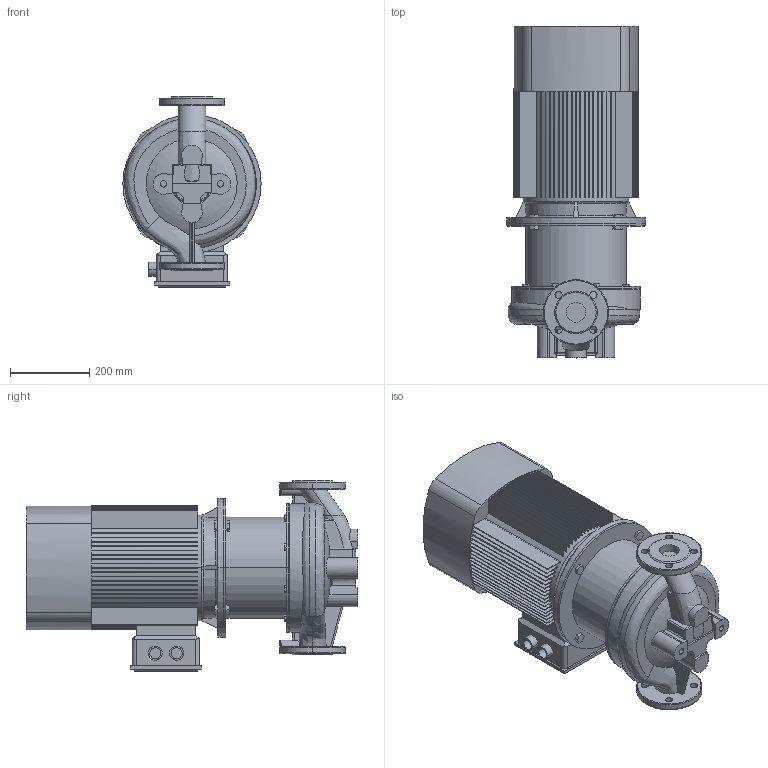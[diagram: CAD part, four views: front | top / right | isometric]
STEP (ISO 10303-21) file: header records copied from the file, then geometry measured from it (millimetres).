
FILE_DESCRIPTION (( 'STEP AP203' ), '1' );
FILE_NAME ('TD50-60G_2.STEP', '2022-04-28T10:40:48', ( '' ), ( '' ), 'SwSTEP 2.0', 'SolidWorks 2019', '' );
FILE_SCHEMA (( 'CONFIG_CONTROL_DESIGN' ));
Length unit declared in the file: millimetre
Products named in the file (4): Fon_50_TD50-60G_2; ED_B5_YE2-160M2-2 (15); TD50-60G_2; Pr_ch 50 - 50_60_70_81_TD50-60G_2
Assembly tree (3 placements, depth 2):
  TD50-60G_2
    Pr_ch 50 - 50_60_70_81_TD50-60G_2
    Fon_50_TD50-60G_2
    ED_B5_YE2-160M2-2 (15)
Bounding box: 350 x 840 x 481 mm (x, y, z)
Volume: 49451819.3 mm3; surface area: 2730821.8 mm2
Topology: 5 solids, 5 shells, 711 faces, 1956 edges, 1285 vertices
Faces by surface type: plane 497, cylinder 142, torus 29, bspline 24, cone 17, sphere 2
Entity records: 28174 total; most frequent: CARTESIAN_POINT 9422, ORIENTED_EDGE 3908, DIRECTION 3818, EDGE_CURVE 1954, AXIS2_PLACEMENT_3D 1330, VERTEX_POINT 1285, LINE 1158, VECTOR 1158
